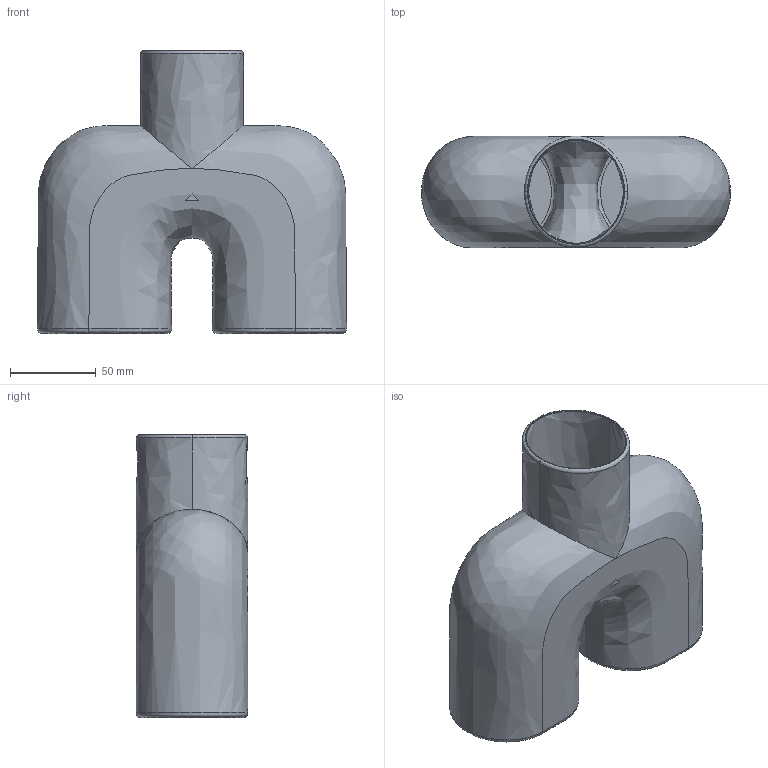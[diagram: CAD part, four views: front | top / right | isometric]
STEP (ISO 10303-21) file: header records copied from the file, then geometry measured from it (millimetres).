
FILE_DESCRIPTION(/* description */ (''),/* implementation_level */ '2;1');
FILE_NAME(/* name */ 'Cobra Mini Uno',/* time_stamp */ '2020-07-07T11:22:07+02:00',/* author */ (''),/* organization */ (''),/* preprocessor_version */ 'ST-DEVELOPER v15',/* originating_system */ '',/* authorisation */ '');
FILE_SCHEMA (('AUTOMOTIVE_DESIGN'));
Length unit declared in the file: millimetre
Products named in the file (1): Document
Bounding box: 180.16 x 64.96 x 165.01 mm (x, y, z)
Surface area: 84101.3 mm2 (no closed solid volume)
Topology: 0 solids, 3 shells, 20 faces, 49 edges, 33 vertices
Faces by surface type: bspline 15, plane 5
Entity records: 6969 total; most frequent: CARTESIAN_POINT 6671, ORIENTED_EDGE 81, EDGE_CURVE 49, VERTEX_POINT 33, EDGE_LOOP 22, ADVANCED_FACE 20, FACE_OUTER_BOUND 20, B_SPLINE_CURVE_WITH_KNOTS 14
